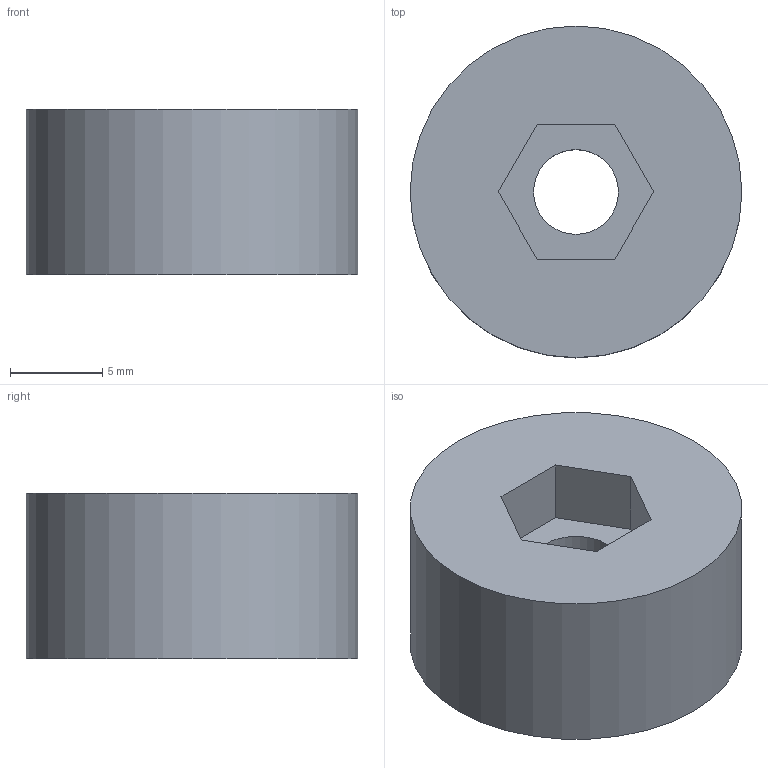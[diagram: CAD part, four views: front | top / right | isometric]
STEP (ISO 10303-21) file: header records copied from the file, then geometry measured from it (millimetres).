
FILE_DESCRIPTION(('Open CASCADE Model'),'2;1');
FILE_NAME('Open CASCADE Shape Model','2026-10-12T22:10:18',('Author'),( 'Open CASCADE'),'Open CASCADE STEP processor 7.9','Open CASCADE 7.9' ,'Unknown');
FILE_SCHEMA(('AUTOMOTIVE_DESIGN { 1 0 10303 214 1 1 1 1 }'));
Length unit declared in the file: millimetre
Products named in the file (1): Open CASCADE STEP translator 7.9 32
Bounding box: 18 x 18 x 9 mm (x, y, z)
Volume: 2037.3 mm3; surface area: 1152.6 mm2
Topology: 1 solids, 1 shells, 11 faces, 24 edges, 16 vertices
Faces by surface type: plane 9, cylinder 2
Full cylindrical faces by diameter (mm): 4.6 x1, 18 x1
Entity records: 628 total; most frequent: CARTESIAN_POINT 100, DIRECTION 100, LINE 64, VECTOR 64, ORIENTED_EDGE 48, PCURVE 48, DEFINITIONAL_REPRESENTATION 48, EDGE_CURVE 24
